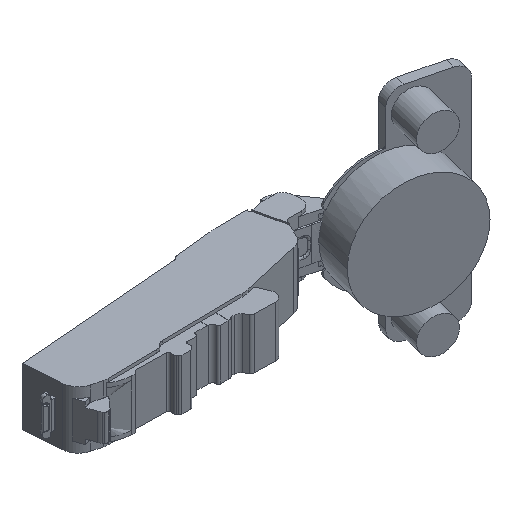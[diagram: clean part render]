
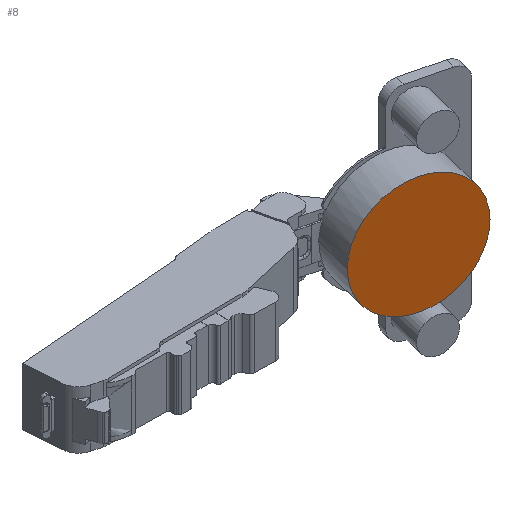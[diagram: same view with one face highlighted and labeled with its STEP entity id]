
A CAD part, isometric view. The second image highlights one B-rep face of the part: STEP entity #8.
In plain terms, the highlighted planar face has unit normal (-0.242, -0.97, 0).
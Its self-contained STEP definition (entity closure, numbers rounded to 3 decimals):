
#8 = ADVANCED_FACE ( 'NONE', ( #501 ), #4863, .T. ) ;
#59 = EDGE_CURVE ( 'NONE', #550, #609, #7846, .T. ) ;
#443 = DIRECTION ( 'NONE',  ( 0.97, -0.242, 0. ) ) ;
#501 = FACE_OUTER_BOUND ( 'NONE', #2585, .T. ) ;
#550 = VERTEX_POINT ( 'NONE', #9753 ) ;
#609 = VERTEX_POINT ( 'NONE', #7924 ) ;
#2491 = DIRECTION ( 'NONE',  ( -0.242, -0.97, 0. ) ) ;
#2585 = EDGE_LOOP ( 'NONE', ( #7853, #3620 ) ) ;
#3082 = CARTESIAN_POINT ( 'NONE',  ( 18.208, 7.984, 0.967 ) ) ;
#3620 = ORIENTED_EDGE ( 'NONE', *, *, #59, .T. ) ;
#4329 = AXIS2_PLACEMENT_3D ( 'NONE', #6128, #5264, #6183 ) ;
#4863 = PLANE ( 'NONE',  #10030 ) ;
#5264 = DIRECTION ( 'NONE',  ( -0.242, -0.97, 0. ) ) ;
#5308 = CIRCLE ( 'NONE', #11015, 17.4 ) ;
#6128 = CARTESIAN_POINT ( 'NONE',  ( 18.208, 7.984, 0.967 ) ) ;
#6183 = DIRECTION ( 'NONE',  ( 0.97, -0.242, 0. ) ) ;
#6397 = EDGE_CURVE ( 'NONE', #609, #550, #5308, .T. ) ;
#7846 = CIRCLE ( 'NONE', #4329, 17.4 ) ;
#7853 = ORIENTED_EDGE ( 'NONE', *, *, #6397, .T. ) ;
#7866 = DIRECTION ( 'NONE',  ( -0.97, 0.242, 0. ) ) ;
#7924 = CARTESIAN_POINT ( 'NONE',  ( 35.092, 3.775, 0.967 ) ) ;
#8336 = DIRECTION ( 'NONE',  ( -0.242, -0.97, 0. ) ) ;
#9753 = CARTESIAN_POINT ( 'NONE',  ( 1.325, 12.193, 0.967 ) ) ;
#10030 = AXIS2_PLACEMENT_3D ( 'NONE', #10156, #2491, #7866 ) ;
#10156 = CARTESIAN_POINT ( 'NONE',  ( 18.208, 7.984, 0.967 ) ) ;
#11015 = AXIS2_PLACEMENT_3D ( 'NONE', #3082, #8336, #443 ) ;
